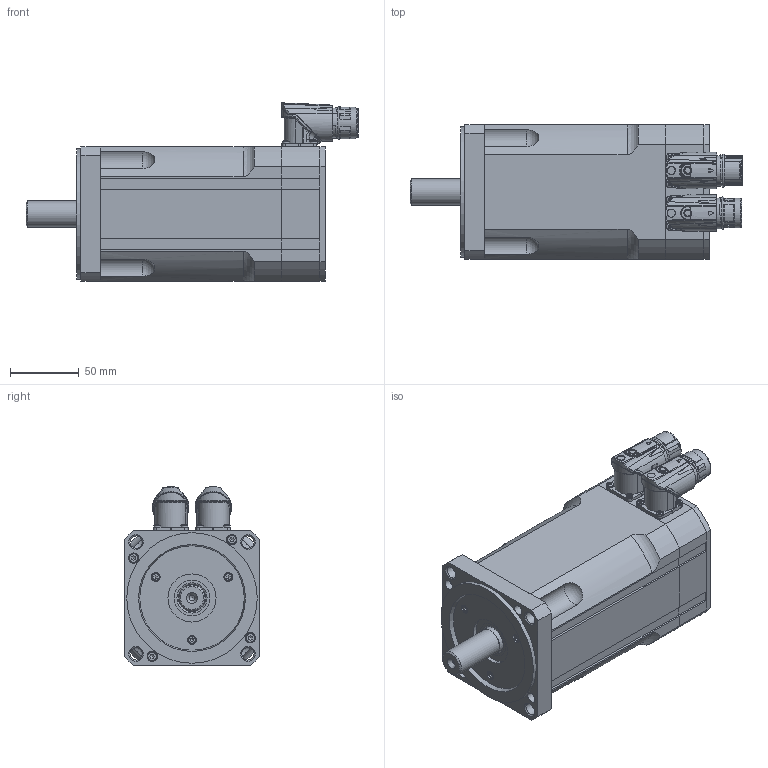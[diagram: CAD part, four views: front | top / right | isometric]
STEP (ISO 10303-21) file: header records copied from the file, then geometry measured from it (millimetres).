
FILE_DESCRIPTION(/* description */ (''),/* implementation_level */ '2;1');
FILE_NAME(/* name */ 'C:\PDF_output\T4000 00 B Z_0260_S2_8P_12P.stp',/* time_stamp */ '2018-02-06T08:25:34+01:00',/* author */ ('oslejsek'),/* organization */ (''),/* preprocessor_version */ 'ST-DEVELOPER v17',/* originating_system */ 'Autodesk Inventor 2018',/* authorisation */ '');
FILE_SCHEMA (('AUTOMOTIVE_DESIGN { 1 0 10303 214 3 1 1 }'));
Products named in the file (5): T4000 00 B Z_0260_S2_8P_12P; T4000 00 B Z_front; T4000 00 B Z_0260_rear; 125092; 125766
Assembly tree (4 placements, depth 2):
  T4000 00 B Z_0260_S2_8P_12P
    T4000 00 B Z_front
    T4000 00 B Z_0260_rear
    125092
    125766
Bounding box: 241.67 x 98 x 130 mm (x, y, z)
Volume: 1639964.1 mm3; surface area: 129841.8 mm2
Topology: 4 solids, 7 shells, 1678 faces, 4420 edges, 2814 vertices
Faces by surface type: cylinder 690, plane 488, bspline 264, cone 115, torus 85, sphere 36
Full cylindrical faces by diameter (mm): 1 x16, 1.18 x12, 1.2 x12, 1.3 x4, 2 x4, 2.013 x2, 2.15 x4, 2.208 x8, 2.4 x8, 2.5 x8, 2.7 x8, 3 x8, 3.3 x3, 3.95 x4, 4 x4, 4.134 x1, 4.3 x4, 4.5 x2, 5.5 x3, 5.8 x1, 5.9 x2, 6.5 x3, 6.8 x1, 7 x4, 7.5 x4, 8 x5, 8.5 x4, 9 x4, 15.2 x1, 16 x1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
Entity records: 66617 total; most frequent: CARTESIAN_POINT 23932, ORIENTED_EDGE 8768, DIRECTION 8548, EDGE_CURVE 4384, AXIS2_PLACEMENT_3D 3573, VERTEX_POINT 2814, CIRCLE 1975, EDGE_LOOP 1880
